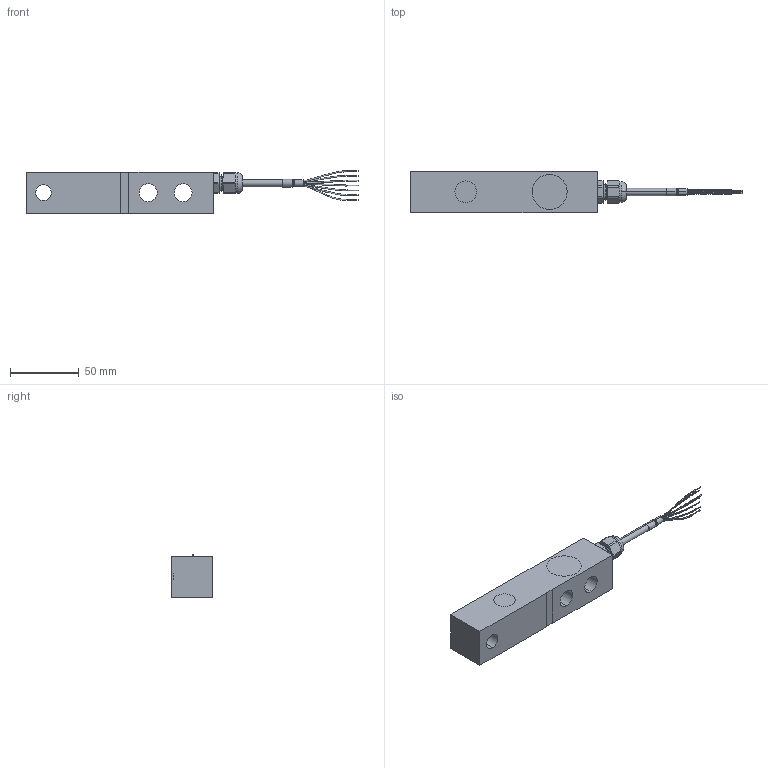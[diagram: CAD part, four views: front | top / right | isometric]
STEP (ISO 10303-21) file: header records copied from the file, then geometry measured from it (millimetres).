
FILE_DESCRIPTION (( 'STEP AP203' ), '1' );
FILE_NAME ('Load Sensor_HISLB Series.STEP', '2023-06-30T15:07:47', ( '' ), ( '' ), 'SwSTEP 2.0', 'SolidWorks 2020', '' );
FILE_SCHEMA (( 'CONFIG_CONTROL_DESIGN' ));
Length unit declared in the file: millimetre
Products named in the file (4): SLB-CU_Body; Load Sensor_HISLB Series; SLB_CABLE; SLB CABLE ADAPTER
Assembly tree (3 placements, depth 2):
  Load Sensor_HISLB Series
    SLB-CU_Body
    SLB CABLE ADAPTER
    SLB_CABLE
Bounding box: 241.5 x 30.1 x 31.15 mm (x, y, z)
Volume: 113791.7 mm3; surface area: 29197.1 mm2
Topology: 12 solids, 12 shells, 278 faces, 581 edges, 344 vertices
Faces by surface type: cone 94, cylinder 84, plane 68, bspline 22, torus 10
Entity records: 8371 total; most frequent: CARTESIAN_POINT 2023, DIRECTION 1341, ORIENTED_EDGE 1162, EDGE_CURVE 581, AXIS2_PLACEMENT_3D 554, VERTEX_POINT 344, EDGE_LOOP 311, CIRCLE 292
